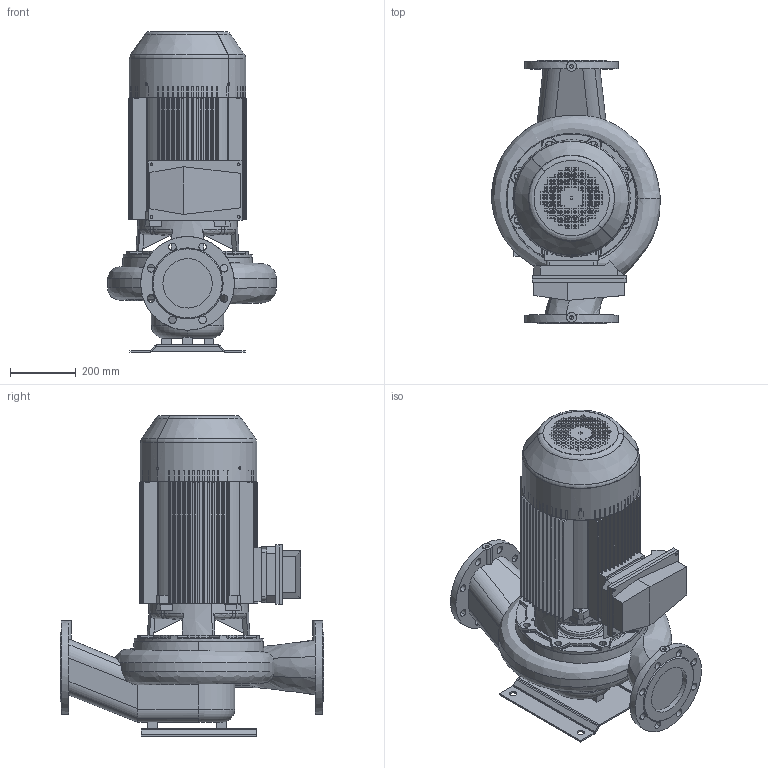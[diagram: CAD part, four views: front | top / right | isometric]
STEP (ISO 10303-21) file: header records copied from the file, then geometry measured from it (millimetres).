
FILE_DESCRIPTION(('STEP AP214'),'1');
FILE_NAME('export.stp','2018-05-28T10:50:58',(' '),(' '),'Spatial InterOp 3D',' ',' ');
FILE_SCHEMA(('AUTOMOTIVE_DESIGN { 1 0 10303 214 1 1 1 1 }'));
Length unit declared in the file: millimetre
Products named in the file (13): W_AL11544220KP187; V_TL110611291154; P100496; P100495; P100342; V_MKP187-K2-BF32; R201280; R200132; R200136; R200138; R200137; R201121; V_PPAL1154
Assembly tree (13 placements, depth 3):
  W_AL11544220KP187
    V_TL110611291154
    P100496
      P100495  x2
      P100342
    V_MKP187-K2-BF32
      R201280
      R200132
      R200136
      R200138
      R200137
      R201121
    V_PPAL1154
Bounding box: 513.03 x 800 x 975.5 mm (x, y, z)
Volume: 52656356.7 mm3; surface area: 5144452.3 mm2
Topology: 11 solids, 11 shells, 2257 faces, 6577 edges, 4350 vertices
Faces by surface type: plane 1264, cylinder 823, torus 69, cone 68, bspline 22, sphere 11
Entity records: 114222 total; most frequent: CARTESIAN_POINT 18377, ORIENTED_EDGE 13088, DIRECTION 12658, EDGE_CURVE 6544, STYLED_ITEM 5397, PRESENTATION_STYLE_ASSIGNMENT 5397, COLOUR_RGB 5397, VERTEX_POINT 4342
